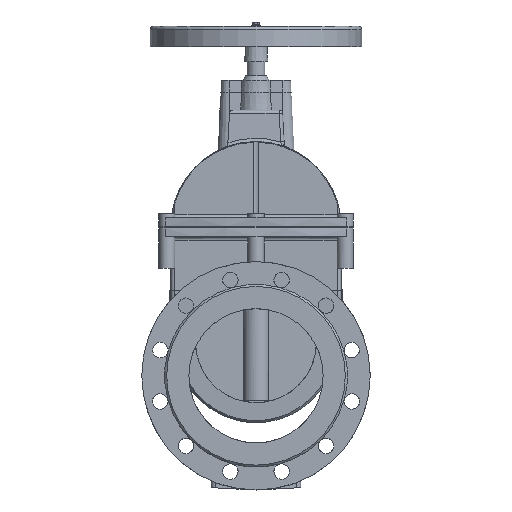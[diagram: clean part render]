
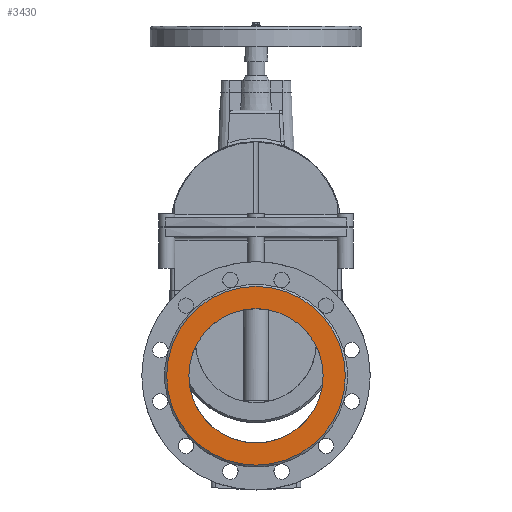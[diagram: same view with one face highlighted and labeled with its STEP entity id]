
A CAD part, left-side view. The second image highlights one B-rep face of the part: STEP entity #3430.
In plain terms, the highlighted planar face has unit normal (-1, 0, 0).
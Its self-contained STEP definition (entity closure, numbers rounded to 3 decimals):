
#3430=ADVANCED_FACE('',(#8772,#8774),#8776,.T.);
#8772=FACE_BOUND('',#8773,.T.);
#8773=EDGE_LOOP('',(#17987));
#8774=FACE_BOUND('',#8775,.T.);
#8775=EDGE_LOOP('',(#17988));
#8776=PLANE('',#8777);
#8777=AXIS2_PLACEMENT_3D('',#8778,#8779,#8780);
#8778=CARTESIAN_POINT('',(-200.,0.,0.));
#8779=DIRECTION('',(-1.,0.,0.));
#8780=DIRECTION('',(0.,-1.,0.));
#17987=ORIENTED_EDGE('',*,*,#20816,.T.);
#17988=ORIENTED_EDGE('',*,*,#20815,.T.);
#20815=EDGE_CURVE('',#23685,#23685,#23686,.F.);
#20816=EDGE_CURVE('',#23687,#23687,#23688,.T.);
#23685=VERTEX_POINT('',#33036);
#23686=CIRCLE('',#33037,100.);
#23687=VERTEX_POINT('',#33041);
#23688=CIRCLE('',#33042,133.);
#33036=CARTESIAN_POINT('',(-200.,-100.,0.));
#33037=AXIS2_PLACEMENT_3D('',#33038,#33039,#33040);
#33038=CARTESIAN_POINT('',(-200.,0.,0.));
#33039=DIRECTION('',(-1.,0.,0.));
#33040=DIRECTION('',(0.,-1.,0.));
#33041=CARTESIAN_POINT('',(-200.,-133.,0.));
#33042=AXIS2_PLACEMENT_3D('',#33043,#33044,#33045);
#33043=CARTESIAN_POINT('',(-200.,0.,0.));
#33044=DIRECTION('',(-1.,0.,0.));
#33045=DIRECTION('',(0.,-1.,0.));
